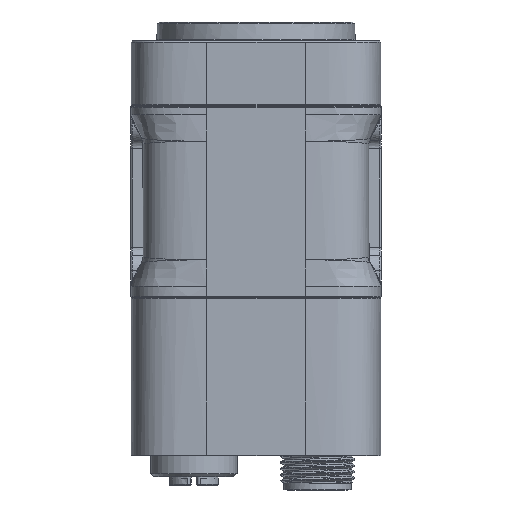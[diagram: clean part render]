
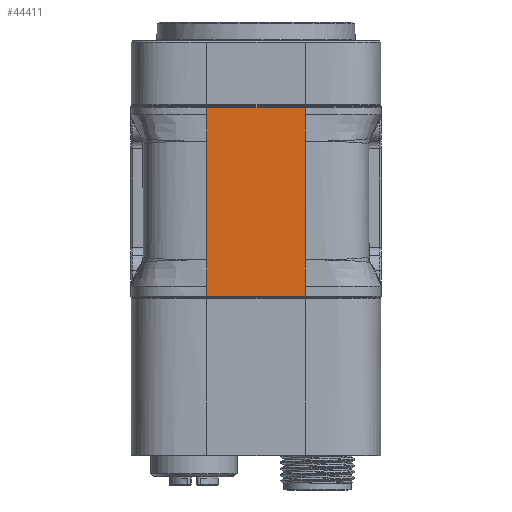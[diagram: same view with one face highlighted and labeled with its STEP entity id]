
A CAD part, left-side view. The second image highlights one B-rep face of the part: STEP entity #44411.
In plain terms, the highlighted planar face has unit normal (-1, 0, 0).
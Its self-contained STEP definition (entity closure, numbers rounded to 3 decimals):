
#1166=PLANE('',#47788);
#2906=B_SPLINE_CURVE_WITH_KNOTS('',3,(#86747,#86748,#86749,#86750,#86751,
#86752),.UNSPECIFIED.,.F.,.F.,(4,1,1,4),(0.,0.333,0.667,
1.),.UNSPECIFIED.);
#2909=B_SPLINE_CURVE_WITH_KNOTS('',3,(#86890,#86891,#86892,#86893,#86894,
#86895),.UNSPECIFIED.,.F.,.F.,(4,1,1,4),(0.,0.333,0.667,
1.),.UNSPECIFIED.);
#2910=B_SPLINE_CURVE_WITH_KNOTS('',3,(#86899,#86900,#86901,#86902,#86903,
#86904),.UNSPECIFIED.,.F.,.F.,(4,1,1,4),(0.,0.333,0.667,
1.),.UNSPECIFIED.);
#2911=B_SPLINE_CURVE_WITH_KNOTS('',3,(#86913,#86914,#86915,#86916,#86917,
#86918),.UNSPECIFIED.,.F.,.F.,(4,1,1,4),(0.,0.333,
0.667,1.),.UNSPECIFIED.);
#4838=FACE_OUTER_BOUND('',#7621,.T.);
#7621=EDGE_LOOP('',(#30400,#30401,#30402,#30403,#30404,#30405,#30406,#30407,
#30408,#30409,#30410,#30411));
#10386=LINE('',#86888,#12476);
#10387=LINE('',#86897,#12477);
#10388=LINE('',#86906,#12478);
#10389=LINE('',#86908,#12479);
#10390=LINE('',#86909,#12480);
#10391=LINE('',#86911,#12481);
#10392=LINE('',#86920,#12482);
#10393=LINE('',#86921,#12483);
#12476=VECTOR('',#54363,1.652);
#12477=VECTOR('',#54364,10.);
#12478=VECTOR('',#54365,1.202);
#12479=VECTOR('',#54366,15.961);
#12480=VECTOR('',#54367,1.202);
#12481=VECTOR('',#54368,19.135);
#12482=VECTOR('',#54369,1.652);
#12483=VECTOR('',#54370,15.961);
#18046=VERTEX_POINT('',#86745);
#18047=VERTEX_POINT('',#86746);
#18048=VERTEX_POINT('',#86886);
#18049=VERTEX_POINT('',#86887);
#18050=VERTEX_POINT('',#86889);
#18051=VERTEX_POINT('',#86896);
#18052=VERTEX_POINT('',#86898);
#18053=VERTEX_POINT('',#86905);
#18054=VERTEX_POINT('',#86907);
#18055=VERTEX_POINT('',#86910);
#18056=VERTEX_POINT('',#86912);
#18057=VERTEX_POINT('',#86919);
#22586=EDGE_CURVE('',#18046,#18047,#2906,.T.);
#22589=EDGE_CURVE('',#18048,#18049,#10386,.T.);
#22590=EDGE_CURVE('',#18049,#18050,#2909,.T.);
#22591=EDGE_CURVE('',#18050,#18051,#10387,.T.);
#22592=EDGE_CURVE('',#18051,#18052,#2910,.T.);
#22593=EDGE_CURVE('',#18053,#18052,#10388,.T.);
#22594=EDGE_CURVE('',#18054,#18053,#10389,.T.);
#22595=EDGE_CURVE('',#18046,#18054,#10390,.T.);
#22596=EDGE_CURVE('',#18047,#18055,#10391,.T.);
#22597=EDGE_CURVE('',#18055,#18056,#2911,.T.);
#22598=EDGE_CURVE('',#18056,#18057,#10392,.T.);
#22599=EDGE_CURVE('',#18057,#18048,#10393,.T.);
#30400=ORIENTED_EDGE('',*,*,#22589,.T.);
#30401=ORIENTED_EDGE('',*,*,#22590,.T.);
#30402=ORIENTED_EDGE('',*,*,#22591,.T.);
#30403=ORIENTED_EDGE('',*,*,#22592,.T.);
#30404=ORIENTED_EDGE('',*,*,#22593,.F.);
#30405=ORIENTED_EDGE('',*,*,#22594,.F.);
#30406=ORIENTED_EDGE('',*,*,#22595,.F.);
#30407=ORIENTED_EDGE('',*,*,#22586,.T.);
#30408=ORIENTED_EDGE('',*,*,#22596,.T.);
#30409=ORIENTED_EDGE('',*,*,#22597,.T.);
#30410=ORIENTED_EDGE('',*,*,#22598,.T.);
#30411=ORIENTED_EDGE('',*,*,#22599,.T.);
#44411=ADVANCED_FACE('',(#4838),#1166,.F.);
#47788=AXIS2_PLACEMENT_3D('',#86885,#54361,#54362);
#54361=DIRECTION('center_axis',(1.,0.,0.));
#54362=DIRECTION('ref_axis',(0.,-1.,0.));
#54363=DIRECTION('',(0.,0.,1.));
#54364=DIRECTION('',(0.,0.,1.));
#54365=DIRECTION('',(0.,0.,-1.));
#54366=DIRECTION('',(0.,-1.,0.));
#54367=DIRECTION('',(0.,0.,1.));
#54368=DIRECTION('',(0.,0.,-1.));
#54369=DIRECTION('',(0.,0.,-1.));
#54370=DIRECTION('',(0.,-1.,0.));
#86745=CARTESIAN_POINT('',(-69.15,7.93,0.749));
#86746=CARTESIAN_POINT('',(-69.15,7.934,-3.531));
#86747=CARTESIAN_POINT('Ctrl Pts',(-69.15,7.93,0.749));
#86748=CARTESIAN_POINT('Ctrl Pts',(-69.15,7.932,0.292));
#86749=CARTESIAN_POINT('Ctrl Pts',(-69.15,7.935,-0.636));
#86750=CARTESIAN_POINT('Ctrl Pts',(-69.15,7.934,-2.063));
#86751=CARTESIAN_POINT('Ctrl Pts',(-69.15,7.934,-3.038));
#86752=CARTESIAN_POINT('Ctrl Pts',(-69.15,7.934,-3.531));
#86885=CARTESIAN_POINT('Origin',(-69.15,-0.05,
11.351));
#86886=CARTESIAN_POINT('',(-69.15,-8.03,-28.599));
#86887=CARTESIAN_POINT('',(-69.15,-8.03,-26.946));
#86888=CARTESIAN_POINT('',(-69.15,-8.03,-28.599));
#86889=CARTESIAN_POINT('',(-69.15,-8.03,-22.666));
#86890=CARTESIAN_POINT('Ctrl Pts',(-69.15,-8.03,-26.946));
#86891=CARTESIAN_POINT('Ctrl Pts',(-69.15,-8.032,-26.493));
#86892=CARTESIAN_POINT('Ctrl Pts',(-69.15,-8.034,-25.57));
#86893=CARTESIAN_POINT('Ctrl Pts',(-69.15,-8.031,-24.143));
#86894=CARTESIAN_POINT('Ctrl Pts',(-69.15,-8.031,-23.163));
#86895=CARTESIAN_POINT('Ctrl Pts',(-69.15,-8.03,-22.666));
#86896=CARTESIAN_POINT('',(-69.15,-8.032,-3.531));
#86897=CARTESIAN_POINT('',(-69.15,-8.03,-22.666));
#86898=CARTESIAN_POINT('',(-69.15,-8.03,0.749));
#86899=CARTESIAN_POINT('Ctrl Pts',(-69.15,-8.032,-3.531));
#86900=CARTESIAN_POINT('Ctrl Pts',(-69.15,-8.032,-3.034));
#86901=CARTESIAN_POINT('Ctrl Pts',(-69.15,-8.032,-2.054));
#86902=CARTESIAN_POINT('Ctrl Pts',(-69.15,-8.034,-0.627));
#86903=CARTESIAN_POINT('Ctrl Pts',(-69.15,-8.032,0.295));
#86904=CARTESIAN_POINT('Ctrl Pts',(-69.15,-8.03,0.749));
#86905=CARTESIAN_POINT('',(-69.15,-8.03,1.951));
#86906=CARTESIAN_POINT('',(-69.15,-8.03,1.951));
#86907=CARTESIAN_POINT('',(-69.15,7.93,1.951));
#86908=CARTESIAN_POINT('',(-69.15,7.93,1.951));
#86909=CARTESIAN_POINT('',(-69.15,7.93,0.749));
#86910=CARTESIAN_POINT('',(-69.15,7.934,-22.666));
#86911=CARTESIAN_POINT('',(-69.15,7.934,-3.531));
#86912=CARTESIAN_POINT('',(-69.15,7.93,-26.946));
#86913=CARTESIAN_POINT('Ctrl Pts',(-69.15,7.934,-22.666));
#86914=CARTESIAN_POINT('Ctrl Pts',(-69.15,7.934,-23.159));
#86915=CARTESIAN_POINT('Ctrl Pts',(-69.15,7.934,-24.134));
#86916=CARTESIAN_POINT('Ctrl Pts',(-69.15,7.935,-25.561));
#86917=CARTESIAN_POINT('Ctrl Pts',(-69.15,7.932,-26.489));
#86918=CARTESIAN_POINT('Ctrl Pts',(-69.15,7.93,-26.946));
#86919=CARTESIAN_POINT('',(-69.15,7.93,-28.599));
#86920=CARTESIAN_POINT('',(-69.15,7.93,-26.946));
#86921=CARTESIAN_POINT('',(-69.15,7.93,-28.599));
